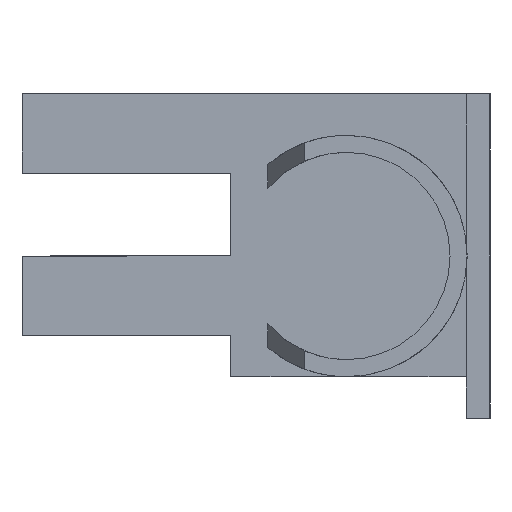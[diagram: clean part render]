
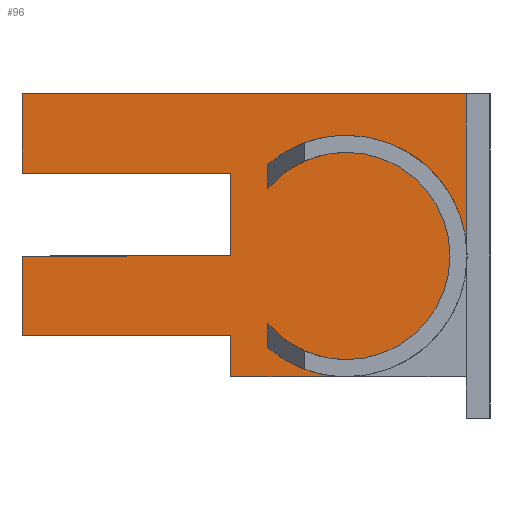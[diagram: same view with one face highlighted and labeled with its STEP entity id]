
A CAD part, left-side view. The second image highlights one B-rep face of the part: STEP entity #96.
In plain terms, the highlighted planar face has unit normal (-1, 0, 0).
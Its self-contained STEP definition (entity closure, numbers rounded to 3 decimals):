
#18 = VERTEX_POINT ( 'NONE', #909 ) ;
#26 = AXIS2_PLACEMENT_3D ( 'NONE', #1120, #595, #192 ) ;
#30 = VERTEX_POINT ( 'NONE', #601 ) ;
#33 = EDGE_CURVE ( 'NONE', #556, #1237, #1190, .T. ) ;
#44 = VERTEX_POINT ( 'NONE', #1232 ) ;
#45 = VERTEX_POINT ( 'NONE', #1009 ) ;
#51 = CARTESIAN_POINT ( 'NONE',  ( -17.2, -42.8, 1.803 ) ) ;
#60 = DIRECTION ( 'NONE',  ( 0., 1., 0. ) ) ;
#64 = CARTESIAN_POINT ( 'NONE',  ( -17.2, 17.2, -10.7 ) ) ;
#71 = EDGE_CURVE ( 'NONE', #1231, #265, #1038, .T. ) ;
#73 = ORIENTED_EDGE ( 'NONE', *, *, #144, .F. ) ;
#81 = CARTESIAN_POINT ( 'NONE',  ( -17.2, -11., 11.2 ) ) ;
#95 = CARTESIAN_POINT ( 'NONE',  ( -17.2, -42.8, -21.9 ) ) ;
#96 = ADVANCED_FACE ( 'NONE', ( #1129 ), #711, .F. ) ;
#103 = CARTESIAN_POINT ( 'NONE',  ( -17.2, -42.8, -16.3 ) ) ;
#112 = VERTEX_POINT ( 'NONE', #515 ) ;
#114 = DIRECTION ( 'NONE',  ( 0., 1., 0. ) ) ;
#137 = AXIS2_PLACEMENT_3D ( 'NONE', #188, #1356, #197 ) ;
#144 = EDGE_CURVE ( 'NONE', #626, #1231, #649, .T. ) ;
#149 = ORIENTED_EDGE ( 'NONE', *, *, #364, .T. ) ;
#160 = AXIS2_PLACEMENT_3D ( 'NONE', #879, #260, #1305 ) ;
#165 = ORIENTED_EDGE ( 'NONE', *, *, #1094, .F. ) ;
#173 = CARTESIAN_POINT ( 'NONE',  ( -17.2, -16., 12.383 ) ) ;
#178 = DIRECTION ( 'NONE',  ( -1., 0., 0. ) ) ;
#180 = DIRECTION ( 'NONE',  ( 0., 0., -1. ) ) ;
#185 = DIRECTION ( 'NONE',  ( 0., 0., 1. ) ) ;
#188 = CARTESIAN_POINT ( 'NONE',  ( -17.2, -26.6, 0. ) ) ;
#192 = DIRECTION ( 'NONE',  ( 0., 0., -1. ) ) ;
#197 = DIRECTION ( 'NONE',  ( 0., 0., 1. ) ) ;
#199 = VECTOR ( 'NONE', #1323, 1000. ) ;
#215 = CARTESIAN_POINT ( 'NONE',  ( -17.2, -42.8, 21.9 ) ) ;
#236 = VERTEX_POINT ( 'NONE', #1071 ) ;
#241 = DIRECTION ( 'NONE',  ( 0., -1., 0. ) ) ;
#258 = ORIENTED_EDGE ( 'NONE', *, *, #383, .F. ) ;
#260 = DIRECTION ( 'NONE',  ( -1., 0., 0. ) ) ;
#265 = VERTEX_POINT ( 'NONE', #976 ) ;
#272 = CIRCLE ( 'NONE', #137, 16.3 ) ;
#273 = VERTEX_POINT ( 'NONE', #51 ) ;
#275 = EDGE_CURVE ( 'NONE', #265, #631, #912, .T. ) ;
#285 = LINE ( 'NONE', #806, #993 ) ;
#287 = CARTESIAN_POINT ( 'NONE',  ( -17.2, -42.8, 21.9 ) ) ;
#288 = LINE ( 'NONE', #913, #329 ) ;
#289 = VECTOR ( 'NONE', #746, 1000. ) ;
#294 = DIRECTION ( 'NONE',  ( -1., 0., 0. ) ) ;
#314 = CARTESIAN_POINT ( 'NONE',  ( -17.2, -26.6, -16.3 ) ) ;
#317 = EDGE_CURVE ( 'NONE', #887, #45, #1228, .T. ) ;
#326 = VECTOR ( 'NONE', #180, 1000. ) ;
#329 = VECTOR ( 'NONE', #1236, 1000. ) ;
#330 = AXIS2_PLACEMENT_3D ( 'NONE', #360, #382, #674 ) ;
#348 = CARTESIAN_POINT ( 'NONE',  ( -17.2, -16., 21.9 ) ) ;
#351 = VERTEX_POINT ( 'NONE', #173 ) ;
#360 = CARTESIAN_POINT ( 'NONE',  ( -17.2, -26.6, 0. ) ) ;
#364 = EDGE_CURVE ( 'NONE', #1237, #18, #398, .T. ) ;
#370 = CARTESIAN_POINT ( 'NONE',  ( -17.2, -11., 0. ) ) ;
#378 = EDGE_CURVE ( 'NONE', #236, #556, #481, .T. ) ;
#382 = DIRECTION ( 'NONE',  ( -1., 0., 0. ) ) ;
#383 = EDGE_CURVE ( 'NONE', #30, #351, #920, .T. ) ;
#398 = CIRCLE ( 'NONE', #1165, 14. ) ;
#412 = LINE ( 'NONE', #103, #1007 ) ;
#423 = CIRCLE ( 'NONE', #1279, 16.3 ) ;
#427 = EDGE_CURVE ( 'NONE', #273, #30, #272, .T. ) ;
#466 = EDGE_CURVE ( 'NONE', #112, #45, #1042, .T. ) ;
#474 = EDGE_CURVE ( 'NONE', #1152, #1166, #423, .T. ) ;
#481 = CIRCLE ( 'NONE', #160, 14. ) ;
#485 = ORIENTED_EDGE ( 'NONE', *, *, #33, .T. ) ;
#499 = CARTESIAN_POINT ( 'NONE',  ( -17.2, 17.2, -21.9 ) ) ;
#502 = VECTOR ( 'NONE', #557, 1000. ) ;
#515 = CARTESIAN_POINT ( 'NONE',  ( -17.2, 17.2, 11.2 ) ) ;
#533 = ORIENTED_EDGE ( 'NONE', *, *, #378, .T. ) ;
#556 = VERTEX_POINT ( 'NONE', #566 ) ;
#557 = DIRECTION ( 'NONE',  ( 0., 0., -1. ) ) ;
#561 = ORIENTED_EDGE ( 'NONE', *, *, #317, .T. ) ;
#566 = CARTESIAN_POINT ( 'NONE',  ( -17.2, -26.6, -14. ) ) ;
#572 = VECTOR ( 'NONE', #241, 1000. ) ;
#585 = DIRECTION ( 'NONE',  ( 0., 0., 1. ) ) ;
#595 = DIRECTION ( 'NONE',  ( 1., 0., 0. ) ) ;
#601 = CARTESIAN_POINT ( 'NONE',  ( -17.2, -26.6, 16.3 ) ) ;
#604 = DIRECTION ( 'NONE',  ( 0., 0., 1. ) ) ;
#617 = ORIENTED_EDGE ( 'NONE', *, *, #906, .F. ) ;
#624 = CARTESIAN_POINT ( 'NONE',  ( -17.2, -26.6, 0. ) ) ;
#626 = VERTEX_POINT ( 'NONE', #690 ) ;
#631 = VERTEX_POINT ( 'NONE', #370 ) ;
#640 = CARTESIAN_POINT ( 'NONE',  ( -17.2, -16., -12.383 ) ) ;
#648 = ORIENTED_EDGE ( 'NONE', *, *, #474, .F. ) ;
#649 = LINE ( 'NONE', #1155, #289 ) ;
#661 = ORIENTED_EDGE ( 'NONE', *, *, #71, .F. ) ;
#674 = DIRECTION ( 'NONE',  ( 0., 0., 1. ) ) ;
#690 = CARTESIAN_POINT ( 'NONE',  ( -17.2, -11., -10.7 ) ) ;
#711 = PLANE ( 'NONE',  #26 ) ;
#714 = DIRECTION ( 'NONE',  ( 0., 0., 1. ) ) ;
#716 = EDGE_CURVE ( 'NONE', #804, #112, #285, .T. ) ;
#726 = VECTOR ( 'NONE', #714, 1000. ) ;
#746 = DIRECTION ( 'NONE',  ( 0., 1., 0. ) ) ;
#779 = EDGE_LOOP ( 'NONE', ( #617, #648, #165, #533, #485, #149, #914, #258, #894, #950, #561, #1109, #1064, #1161, #1174, #661, #73, #977 ) ) ;
#801 = CARTESIAN_POINT ( 'NONE',  ( -17.2, -26.6, 14. ) ) ;
#804 = VERTEX_POINT ( 'NONE', #81 ) ;
#806 = CARTESIAN_POINT ( 'NONE',  ( -17.2, 17.2, 11.2 ) ) ;
#808 = VECTOR ( 'NONE', #872, 1000. ) ;
#811 = CARTESIAN_POINT ( 'NONE',  ( -17.2, 17.2, -21.9 ) ) ;
#864 = EDGE_CURVE ( 'NONE', #273, #887, #1052, .T. ) ;
#872 = DIRECTION ( 'NONE',  ( 0., 1., 0. ) ) ;
#879 = CARTESIAN_POINT ( 'NONE',  ( -17.2, -26.6, 0. ) ) ;
#887 = VERTEX_POINT ( 'NONE', #215 ) ;
#894 = ORIENTED_EDGE ( 'NONE', *, *, #427, .F. ) ;
#897 = LINE ( 'NONE', #1131, #199 ) ;
#905 = CARTESIAN_POINT ( 'NONE',  ( -17.2, 17.2, 0. ) ) ;
#906 = EDGE_CURVE ( 'NONE', #1166, #44, #412, .T. ) ;
#909 = CARTESIAN_POINT ( 'NONE',  ( -17.2, -16., 9.145 ) ) ;
#912 = LINE ( 'NONE', #905, #572 ) ;
#913 = CARTESIAN_POINT ( 'NONE',  ( -17.2, -11., -21.9 ) ) ;
#914 = ORIENTED_EDGE ( 'NONE', *, *, #1314, .F. ) ;
#920 = CIRCLE ( 'NONE', #330, 16.3 ) ;
#950 = ORIENTED_EDGE ( 'NONE', *, *, #864, .T. ) ;
#976 = CARTESIAN_POINT ( 'NONE',  ( -17.2, 17.2, 0. ) ) ;
#977 = ORIENTED_EDGE ( 'NONE', *, *, #1363, .F. ) ;
#991 = DIRECTION ( 'NONE',  ( -1., 0., 0. ) ) ;
#993 = VECTOR ( 'NONE', #60, 1000. ) ;
#1007 = VECTOR ( 'NONE', #114, 1000. ) ;
#1009 = CARTESIAN_POINT ( 'NONE',  ( -17.2, 17.2, 21.9 ) ) ;
#1010 = AXIS2_PLACEMENT_3D ( 'NONE', #1238, #178, #585 ) ;
#1013 = EDGE_CURVE ( 'NONE', #631, #804, #897, .T. ) ;
#1038 = LINE ( 'NONE', #499, #1278 ) ;
#1042 = LINE ( 'NONE', #811, #1345 ) ;
#1052 = LINE ( 'NONE', #95, #726 ) ;
#1064 = ORIENTED_EDGE ( 'NONE', *, *, #716, .F. ) ;
#1071 = CARTESIAN_POINT ( 'NONE',  ( -17.2, -16., -9.145 ) ) ;
#1094 = EDGE_CURVE ( 'NONE', #236, #1152, #1353, .T. ) ;
#1109 = ORIENTED_EDGE ( 'NONE', *, *, #466, .F. ) ;
#1120 = CARTESIAN_POINT ( 'NONE',  ( -17.2, -42.8, -21.9 ) ) ;
#1123 = CARTESIAN_POINT ( 'NONE',  ( -17.2, -16., 21.9 ) ) ;
#1129 = FACE_OUTER_BOUND ( 'NONE', #779, .T. ) ;
#1131 = CARTESIAN_POINT ( 'NONE',  ( -17.2, -11., 0. ) ) ;
#1152 = VERTEX_POINT ( 'NONE', #640 ) ;
#1155 = CARTESIAN_POINT ( 'NONE',  ( -17.2, 17.2, -10.7 ) ) ;
#1161 = ORIENTED_EDGE ( 'NONE', *, *, #1013, .F. ) ;
#1165 = AXIS2_PLACEMENT_3D ( 'NONE', #1330, #991, #1338 ) ;
#1166 = VERTEX_POINT ( 'NONE', #314 ) ;
#1174 = ORIENTED_EDGE ( 'NONE', *, *, #275, .F. ) ;
#1190 = CIRCLE ( 'NONE', #1010, 14. ) ;
#1228 = LINE ( 'NONE', #287, #808 ) ;
#1231 = VERTEX_POINT ( 'NONE', #64 ) ;
#1232 = CARTESIAN_POINT ( 'NONE',  ( -17.2, -11., -16.3 ) ) ;
#1235 = DIRECTION ( 'NONE',  ( 0., 0., 1. ) ) ;
#1236 = DIRECTION ( 'NONE',  ( 0., 0., 1. ) ) ;
#1237 = VERTEX_POINT ( 'NONE', #801 ) ;
#1238 = CARTESIAN_POINT ( 'NONE',  ( -17.2, -26.6, 0. ) ) ;
#1278 = VECTOR ( 'NONE', #185, 1000. ) ;
#1279 = AXIS2_PLACEMENT_3D ( 'NONE', #624, #294, #604 ) ;
#1290 = LINE ( 'NONE', #348, #502 ) ;
#1305 = DIRECTION ( 'NONE',  ( 0., 0., 1. ) ) ;
#1314 = EDGE_CURVE ( 'NONE', #351, #18, #1290, .T. ) ;
#1323 = DIRECTION ( 'NONE',  ( 0., 0., 1. ) ) ;
#1330 = CARTESIAN_POINT ( 'NONE',  ( -17.2, -26.6, 0. ) ) ;
#1338 = DIRECTION ( 'NONE',  ( 0., 0., 1. ) ) ;
#1345 = VECTOR ( 'NONE', #1235, 1000. ) ;
#1353 = LINE ( 'NONE', #1123, #326 ) ;
#1356 = DIRECTION ( 'NONE',  ( -1., 0., 0. ) ) ;
#1363 = EDGE_CURVE ( 'NONE', #44, #626, #288, .T. ) ;
